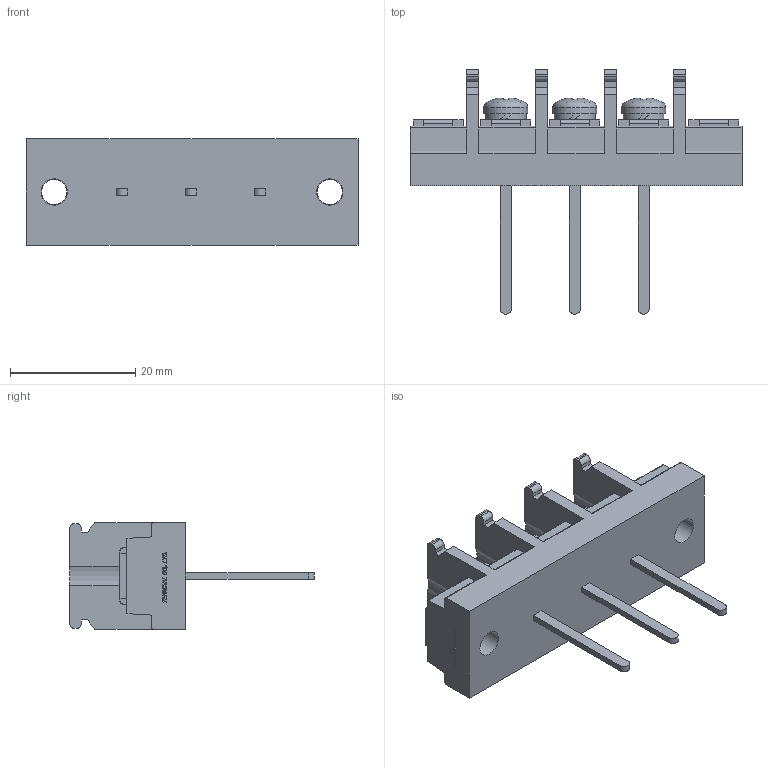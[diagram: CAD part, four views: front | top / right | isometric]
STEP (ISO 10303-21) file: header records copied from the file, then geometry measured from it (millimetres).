
FILE_DESCRIPTION(/* description */ ('Alibre Inc.'),/* implementation_level */ '2;1');
FILE_NAME(/* name */ 'export0',/* time_stamp */ '2015-10-20T07:52:58+09:00',/* author */ (''),/* organization */ (''),/* preprocessor_version */ 'ST-DEVELOPER v14',/* originating_system */ 'Alibre',/* authorisation */ '');
FILE_SCHEMA (('CONFIG_CONTROL_DESIGN'));
Length unit declared in the file: centimetre
Products named in the file (1): ID_1
Bounding box: 53 x 39 x 17 mm (x, y, z)
Volume: 9283.4 mm3; surface area: 5643.6 mm2
Topology: 1 solids, 1 shells, 669 faces, 1835 edges, 1221 vertices
Faces by surface type: plane 474, bspline 104, cylinder 70, cone 12, torus 6, sphere 3
Full cylindrical faces by diameter (mm): 4 x5, 4.2 x2, 6.5 x3, 7 x3
Entity records: 20612 total; most frequent: CARTESIAN_POINT 4703, ORIENTED_EDGE 3616, DIRECTION 2444, EDGE_CURVE 1808, VECTOR 1342, LINE 1342, VERTEX_POINT 1210, AXIS2_PLACEMENT_3D 783
